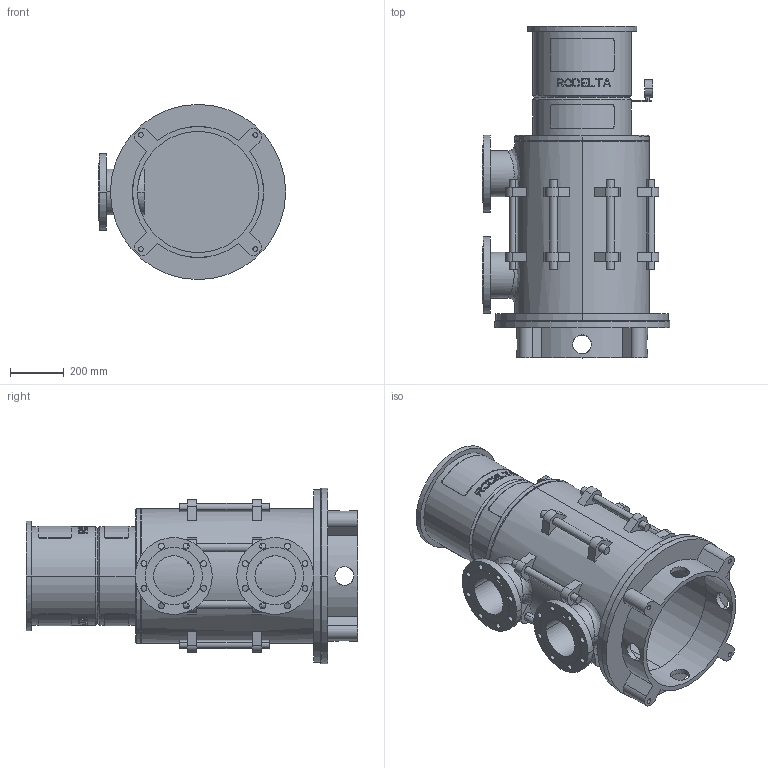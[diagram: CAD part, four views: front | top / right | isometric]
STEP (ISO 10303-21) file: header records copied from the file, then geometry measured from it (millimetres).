
FILE_DESCRIPTION((''),'2;1');
FILE_NAME('LS6_2TR_0GR_TOT_30KW','2023-08-15T',('Lyritlocal'),(''),'PRO/ENGINEER BY PARAMETRIC TECHNOLOGY CORPORATION, 2016360','PRO/ENGINEER BY PARAMETRIC TECHNOLOGY CORPORATION, 2016360','');
FILE_SCHEMA(('CONFIG_CONTROL_DESIGN'));
Length unit declared in the file: millimetre
Products named in the file (1): LS6_2TR_0GR_TOT_30KW
Bounding box: 695 x 1231 x 650 mm (x, y, z)
Volume: 40270068.5 mm3; surface area: 5291316.5 mm2
Topology: 3 solids, 7 shells, 684 faces, 1767 edges, 1174 vertices
Faces by surface type: plane 422, cylinder 242, cone 12, bspline 8
Entity records: 22573 total; most frequent: CARTESIAN_POINT 5961, ORIENTED_EDGE 3518, DIRECTION 3273, EDGE_CURVE 1767, AXIS2_PLACEMENT_3D 1237, VERTEX_POINT 1174, EDGE_LOOP 829, VECTOR 799
